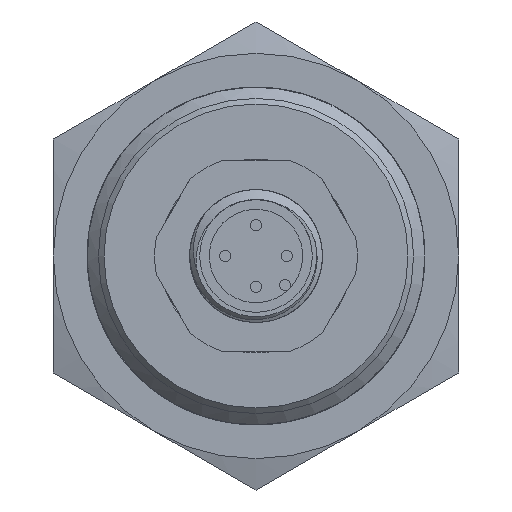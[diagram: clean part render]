
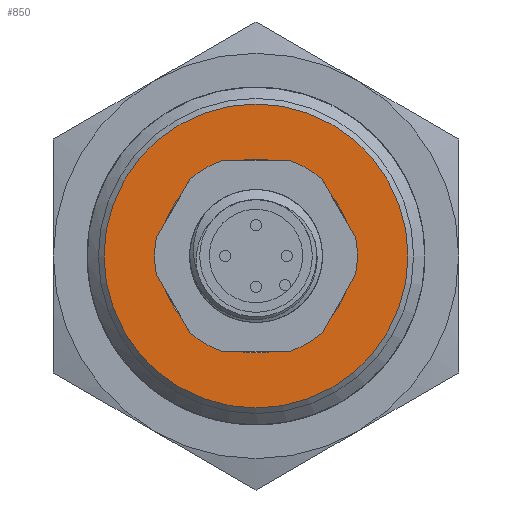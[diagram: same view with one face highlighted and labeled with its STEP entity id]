
A CAD part, front view. The second image highlights one B-rep face of the part: STEP entity #850.
In plain terms, the highlighted planar face has unit normal (0, -1, 0).
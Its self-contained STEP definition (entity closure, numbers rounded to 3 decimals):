
#580=PLANE('',#2559);
#616=LINE('',#11055,#677);
#617=LINE('',#11059,#678);
#618=LINE('',#11063,#679);
#619=LINE('',#11067,#680);
#620=LINE('',#11071,#681);
#621=LINE('',#11075,#682);
#622=LINE('',#11079,#683);
#623=LINE('',#11083,#684);
#624=LINE('',#11087,#685);
#625=LINE('',#11091,#686);
#626=LINE('',#11095,#687);
#627=LINE('',#11099,#688);
#677=VECTOR('',#2911,1.);
#678=VECTOR('',#2914,1.);
#679=VECTOR('',#2917,1.);
#680=VECTOR('',#2920,1.);
#681=VECTOR('',#2923,1.);
#682=VECTOR('',#2926,1.);
#683=VECTOR('',#2929,1.);
#684=VECTOR('',#2932,1.);
#685=VECTOR('',#2935,1.);
#686=VECTOR('',#2938,1.);
#687=VECTOR('',#2941,1.);
#688=VECTOR('',#2944,1.);
#743=FACE_BOUND('',#1100,.T.);
#744=FACE_BOUND('',#1101,.T.);
#850=ADVANCED_FACE('',(#743,#744),#580,.F.);
#1100=EDGE_LOOP('',(#1616,#1617,#1618,#1619,#1620,#1621,#1622,#1623,#1624,
#1625,#1626,#1627,#1628,#1629,#1630,#1631,#1632,#1633,#1634,#1635,#1636,
#1637,#1638,#1639));
#1101=EDGE_LOOP('',(#1640));
#1207=CIRCLE('',#2545,13.5);
#1208=CIRCLE('',#2547,8.6);
#1209=CIRCLE('',#2548,9.);
#1210=CIRCLE('',#2549,8.6);
#1211=CIRCLE('',#2550,9.);
#1212=CIRCLE('',#2551,8.6);
#1213=CIRCLE('',#2552,9.);
#1214=CIRCLE('',#2553,8.6);
#1215=CIRCLE('',#2554,9.);
#1216=CIRCLE('',#2555,8.6);
#1217=CIRCLE('',#2556,9.);
#1218=CIRCLE('',#2557,8.6);
#1219=CIRCLE('',#2558,9.);
#1616=ORIENTED_EDGE('',*,*,#2190,.T.);
#1617=ORIENTED_EDGE('',*,*,#2191,.T.);
#1618=ORIENTED_EDGE('',*,*,#2192,.T.);
#1619=ORIENTED_EDGE('',*,*,#2193,.T.);
#1620=ORIENTED_EDGE('',*,*,#2194,.T.);
#1621=ORIENTED_EDGE('',*,*,#2195,.T.);
#1622=ORIENTED_EDGE('',*,*,#2196,.T.);
#1623=ORIENTED_EDGE('',*,*,#2197,.T.);
#1624=ORIENTED_EDGE('',*,*,#2198,.T.);
#1625=ORIENTED_EDGE('',*,*,#2199,.T.);
#1626=ORIENTED_EDGE('',*,*,#2200,.T.);
#1627=ORIENTED_EDGE('',*,*,#2201,.T.);
#1628=ORIENTED_EDGE('',*,*,#2202,.T.);
#1629=ORIENTED_EDGE('',*,*,#2203,.T.);
#1630=ORIENTED_EDGE('',*,*,#2204,.T.);
#1631=ORIENTED_EDGE('',*,*,#2205,.T.);
#1632=ORIENTED_EDGE('',*,*,#2206,.T.);
#1633=ORIENTED_EDGE('',*,*,#2207,.T.);
#1634=ORIENTED_EDGE('',*,*,#2208,.T.);
#1635=ORIENTED_EDGE('',*,*,#2209,.T.);
#1636=ORIENTED_EDGE('',*,*,#2210,.T.);
#1637=ORIENTED_EDGE('',*,*,#2211,.T.);
#1638=ORIENTED_EDGE('',*,*,#2212,.T.);
#1639=ORIENTED_EDGE('',*,*,#2213,.T.);
#1640=ORIENTED_EDGE('',*,*,#2189,.T.);
#1938=VERTEX_POINT('',#11050);
#1939=VERTEX_POINT('',#11053);
#1940=VERTEX_POINT('',#11054);
#1941=VERTEX_POINT('',#11056);
#1942=VERTEX_POINT('',#11058);
#1943=VERTEX_POINT('',#11060);
#1944=VERTEX_POINT('',#11062);
#1945=VERTEX_POINT('',#11064);
#1946=VERTEX_POINT('',#11066);
#1947=VERTEX_POINT('',#11068);
#1948=VERTEX_POINT('',#11070);
#1949=VERTEX_POINT('',#11072);
#1950=VERTEX_POINT('',#11074);
#1951=VERTEX_POINT('',#11076);
#1952=VERTEX_POINT('',#11078);
#1953=VERTEX_POINT('',#11080);
#1954=VERTEX_POINT('',#11082);
#1955=VERTEX_POINT('',#11084);
#1956=VERTEX_POINT('',#11086);
#1957=VERTEX_POINT('',#11088);
#1958=VERTEX_POINT('',#11090);
#1959=VERTEX_POINT('',#11092);
#1960=VERTEX_POINT('',#11094);
#1961=VERTEX_POINT('',#11096);
#1962=VERTEX_POINT('',#11098);
#2189=EDGE_CURVE('',#1938,#1938,#1207,.T.);
#2190=EDGE_CURVE('',#1939,#1940,#1208,.T.);
#2191=EDGE_CURVE('',#1940,#1941,#616,.T.);
#2192=EDGE_CURVE('',#1941,#1942,#1209,.T.);
#2193=EDGE_CURVE('',#1942,#1943,#617,.T.);
#2194=EDGE_CURVE('',#1943,#1944,#1210,.T.);
#2195=EDGE_CURVE('',#1944,#1945,#618,.T.);
#2196=EDGE_CURVE('',#1945,#1946,#1211,.T.);
#2197=EDGE_CURVE('',#1946,#1947,#619,.T.);
#2198=EDGE_CURVE('',#1947,#1948,#1212,.T.);
#2199=EDGE_CURVE('',#1948,#1949,#620,.T.);
#2200=EDGE_CURVE('',#1949,#1950,#1213,.T.);
#2201=EDGE_CURVE('',#1950,#1951,#621,.T.);
#2202=EDGE_CURVE('',#1951,#1952,#1214,.T.);
#2203=EDGE_CURVE('',#1952,#1953,#622,.T.);
#2204=EDGE_CURVE('',#1953,#1954,#1215,.T.);
#2205=EDGE_CURVE('',#1954,#1955,#623,.T.);
#2206=EDGE_CURVE('',#1955,#1956,#1216,.T.);
#2207=EDGE_CURVE('',#1956,#1957,#624,.T.);
#2208=EDGE_CURVE('',#1957,#1958,#1217,.T.);
#2209=EDGE_CURVE('',#1958,#1959,#625,.T.);
#2210=EDGE_CURVE('',#1959,#1960,#1218,.T.);
#2211=EDGE_CURVE('',#1960,#1961,#626,.T.);
#2212=EDGE_CURVE('',#1961,#1962,#1219,.T.);
#2213=EDGE_CURVE('',#1962,#1939,#627,.T.);
#2545=AXIS2_PLACEMENT_3D('',#11049,#2905,#2906);
#2547=AXIS2_PLACEMENT_3D('',#11052,#2909,#2910);
#2548=AXIS2_PLACEMENT_3D('',#11057,#2912,#2913);
#2549=AXIS2_PLACEMENT_3D('',#11061,#2915,#2916);
#2550=AXIS2_PLACEMENT_3D('',#11065,#2918,#2919);
#2551=AXIS2_PLACEMENT_3D('',#11069,#2921,#2922);
#2552=AXIS2_PLACEMENT_3D('',#11073,#2924,#2925);
#2553=AXIS2_PLACEMENT_3D('',#11077,#2927,#2928);
#2554=AXIS2_PLACEMENT_3D('',#11081,#2930,#2931);
#2555=AXIS2_PLACEMENT_3D('',#11085,#2933,#2934);
#2556=AXIS2_PLACEMENT_3D('',#11089,#2936,#2937);
#2557=AXIS2_PLACEMENT_3D('',#11093,#2939,#2940);
#2558=AXIS2_PLACEMENT_3D('',#11097,#2942,#2943);
#2559=AXIS2_PLACEMENT_3D('',#11100,#2945,#2946);
#2905=DIRECTION('',(0.,-1.,0.));
#2906=DIRECTION('',(0.,0.,-1.));
#2909=DIRECTION('',(0.,1.,0.));
#2910=DIRECTION('',(0.,0.,1.));
#2911=DIRECTION('',(-0.501,0.,0.865));
#2912=DIRECTION('',(0.,1.,0.));
#2913=DIRECTION('',(1.,0.,0.));
#2914=DIRECTION('',(0.501,0.,0.865));
#2915=DIRECTION('',(0.,1.,0.));
#2916=DIRECTION('',(0.,0.,1.));
#2917=DIRECTION('',(0.501,0.,0.865));
#2918=DIRECTION('',(0.,1.,0.));
#2919=DIRECTION('',(1.,0.,0.));
#2920=DIRECTION('',(1.,0.,0.));
#2921=DIRECTION('',(0.,1.,0.));
#2922=DIRECTION('',(0.,0.,1.));
#2923=DIRECTION('',(1.,0.,0.));
#2924=DIRECTION('',(0.,1.,0.));
#2925=DIRECTION('',(1.,0.,0.));
#2926=DIRECTION('',(0.501,0.,-0.865));
#2927=DIRECTION('',(0.,1.,0.));
#2928=DIRECTION('',(0.,0.,1.));
#2929=DIRECTION('',(0.501,0.,-0.865));
#2930=DIRECTION('',(0.,1.,0.));
#2931=DIRECTION('',(1.,0.,0.));
#2932=DIRECTION('',(-0.498,0.,-0.867));
#2933=DIRECTION('',(0.,1.,0.));
#2934=DIRECTION('',(0.,0.,1.));
#2935=DIRECTION('',(-0.498,0.,-0.867));
#2936=DIRECTION('',(0.,1.,0.));
#2937=DIRECTION('',(1.,0.,0.));
#2938=DIRECTION('',(-1.,0.,0.));
#2939=DIRECTION('',(0.,1.,0.));
#2940=DIRECTION('',(0.,0.,1.));
#2941=DIRECTION('',(-1.,0.,0.));
#2942=DIRECTION('',(0.,1.,0.));
#2943=DIRECTION('',(1.,0.,0.));
#2944=DIRECTION('',(-0.501,0.,0.865));
#2945=DIRECTION('',(0.,1.,0.));
#2946=DIRECTION('',(0.,0.,1.));
#11049=CARTESIAN_POINT('',(0.,-2.,0.));
#11050=CARTESIAN_POINT('',(0.,-2.,-13.5));
#11052=CARTESIAN_POINT('',(0.,-2.,0.));
#11053=CARTESIAN_POINT('',(-6.623,-2.,-5.486));
#11054=CARTESIAN_POINT('',(-8.055,-2.,-3.014));
#11055=CARTESIAN_POINT('',(-7.339,-2.,-4.25));
#11056=CARTESIAN_POINT('',(-8.849,-2.,-1.642));
#11057=CARTESIAN_POINT('',(0.,-2.,0.));
#11058=CARTESIAN_POINT('',(-8.849,-2.,1.642));
#11059=CARTESIAN_POINT('',(-7.339,-2.,4.25));
#11060=CARTESIAN_POINT('',(-8.055,-2.,3.014));
#11061=CARTESIAN_POINT('',(0.,-2.,0.));
#11062=CARTESIAN_POINT('',(-6.623,-2.,5.486));
#11063=CARTESIAN_POINT('',(-7.339,-2.,4.25));
#11064=CARTESIAN_POINT('',(-5.829,-2.,6.858));
#11065=CARTESIAN_POINT('',(0.,-2.,0.));
#11066=CARTESIAN_POINT('',(-2.958,-2.,8.5));
#11067=CARTESIAN_POINT('',(0.,-2.,8.5));
#11068=CARTESIAN_POINT('',(-1.308,-2.,8.5));
#11069=CARTESIAN_POINT('',(0.,-2.,0.));
#11070=CARTESIAN_POINT('',(1.308,-2.,8.5));
#11071=CARTESIAN_POINT('',(0.,-2.,8.5));
#11072=CARTESIAN_POINT('',(2.958,-2.,8.5));
#11073=CARTESIAN_POINT('',(0.,-2.,0.));
#11074=CARTESIAN_POINT('',(5.829,-2.,6.858));
#11075=CARTESIAN_POINT('',(7.339,-2.,4.25));
#11076=CARTESIAN_POINT('',(6.623,-2.,5.486));
#11077=CARTESIAN_POINT('',(0.,-2.,0.));
#11078=CARTESIAN_POINT('',(8.055,-2.,3.014));
#11079=CARTESIAN_POINT('',(7.339,-2.,4.25));
#11080=CARTESIAN_POINT('',(8.849,-2.,1.642));
#11081=CARTESIAN_POINT('',(0.,-2.,0.));
#11082=CARTESIAN_POINT('',(8.845,-2.,-1.665));
#11083=CARTESIAN_POINT('',(7.372,-2.,-4.23));
#11084=CARTESIAN_POINT('',(8.023,-2.,-3.096));
#11085=CARTESIAN_POINT('',(0.,-2.,0.));
#11086=CARTESIAN_POINT('',(6.722,-2.,-5.365));
#11087=CARTESIAN_POINT('',(7.372,-2.,-4.23));
#11088=CARTESIAN_POINT('',(5.9,-2.,-6.796));
#11089=CARTESIAN_POINT('',(0.,-2.,0.));
#11090=CARTESIAN_POINT('',(2.958,-2.,-8.5));
#11091=CARTESIAN_POINT('',(0.,-2.,-8.5));
#11092=CARTESIAN_POINT('',(1.308,-2.,-8.5));
#11093=CARTESIAN_POINT('',(0.,-2.,0.));
#11094=CARTESIAN_POINT('',(-1.308,-2.,-8.5));
#11095=CARTESIAN_POINT('',(0.,-2.,-8.5));
#11096=CARTESIAN_POINT('',(-2.958,-2.,-8.5));
#11097=CARTESIAN_POINT('',(0.,-2.,0.));
#11098=CARTESIAN_POINT('',(-5.829,-2.,-6.858));
#11099=CARTESIAN_POINT('',(-7.339,-2.,-4.25));
#11100=CARTESIAN_POINT('',(-13.5,-2.,0.));
